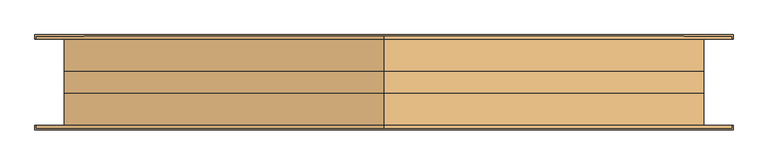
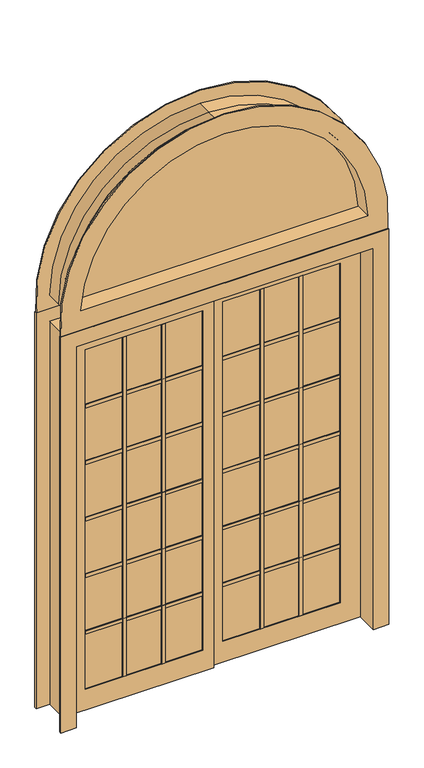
"""IFC4 building model written with IfcOpenShell, lengths in millimetres: door geometry, Pollard_Windows_Vistador Patio Doors_ATS_Half Round : AVDR6080-HRW1506_GC."""

from ifc_helpers import new_model, si_unit, point, frame, frame_2d, origin, place, context, project, spatial, polyline, circle_curve, trimmed, segment, composite_curve, outline, extrude, faceted_brep, source, transform, mapped, element, save
from ifc_brep_helpers import plane_surface, cylinder_surface, revolved_surface, advanced_brep


def door_ef641ad4(model_context):
    return source(origin(), model_context, "Body", "SolidModel", [
        extrude(outline(composite_curve([segment(polyline([(2168.398, -737.278026), (2168.398, 737.278026)]), True, "CONTINUOUS"), segment(trimmed(circle_curve(frame_2d((2155.698, 0.0)), 737.3874), [point((2168.398, 737.278026))], [point((2893.0854, 0.0))], False, "CARTESIAN"), True, "CONTINUOUS"), segment(trimmed(circle_curve(frame_2d((2155.698, 0.0)), 737.3874), [point((2893.0854, 0.0))], [point((2168.398, -737.278026))], False, "CARTESIAN"), True, "CONTINUOUS")], self_intersect=False)), frame((0.0, -2.5, 0.0), z_axis=(0.0, 1.0, 0.0), x_axis=(0.0, 0.0, 1.0)), (0.0, 0.0, 1.0), 5.0),
        advanced_brep(
        [(734.3693044, 2.5, 2171.2514091), (0.0, 2.5, 2890.2319909), (0.0, 25.4, 2890.2319909), (734.3693044, 25.4, 2171.2514091), (747.2285428, -2.5, 2158.5514091), (0.0, -2.5, 2902.9319909), (0.0, 2.5, 2902.9319909), (747.2285428, 2.5, 2158.5514091), (734.3693044, -25.4, 2171.2514091), (0.0, -25.4, 2890.2319909), (0.0, -2.5, 2890.2319909), (734.3693044, -2.5, 2171.2514091), (-734.3693044, 25.4, 2171.2514091), (-734.3693044, 2.5, 2171.2514091), (-747.2285428, 2.5, 2158.5514091), (-747.2285428, -2.5, 2158.5514091), (-734.3693044, -2.5, 2171.2514091), (-734.3693044, -25.4, 2171.2514091), (0.0, -25.4, 2905.7854), (-750.0874, -25.4, 2155.698), (750.0874, -25.4, 2155.698), (0.0, 25.4, 2905.7854), (750.0874, 25.4, 2155.698), (-750.0874, 25.4, 2155.698)],
        [
            (0, 1, circle_curve(frame((0.0, 2.5, 2155.698), z_axis=(0.0, -1.0, 0.0), x_axis=(0.0, 0.0, 1.0)), 734.5339909)),
            (1, 2),
            (2, 3, circle_curve(frame((0.0, 25.4, 2155.698), z_axis=(0.0, 1.0, 0.0), x_axis=(0.0, 0.0, 1.0)), 734.5339909)),
            (3, 0),
            (4, 5, circle_curve(frame((0.0, -2.5, 2155.698), z_axis=(0.0, -1.0, 0.0), x_axis=(0.0, 0.0, 1.0)), 747.2339909)),
            (5, 6),
            (6, 7, circle_curve(frame((0.0, 2.5, 2155.698), z_axis=(0.0, 1.0, 0.0), x_axis=(0.0, 0.0, 1.0)), 747.2339909)),
            (7, 4),
            (8, 9, circle_curve(frame((0.0, -25.4, 2155.698), z_axis=(0.0, -1.0, 0.0), x_axis=(0.0, 0.0, 1.0)), 734.5339909)),
            (9, 10),
            (10, 11, circle_curve(frame((0.0, -2.5, 2155.698), z_axis=(0.0, 1.0, 0.0), x_axis=(0.0, 0.0, 1.0)), 734.5339909)),
            (11, 8),
            (3, 12),
            (12, 13),
            (13, 0),
            (7, 14),
            (14, 15),
            (15, 4),
            (11, 16),
            (16, 17),
            (17, 8),
            (1, 13, circle_curve(frame((0.0, 2.5, 2155.698), z_axis=(0.0, -1.0, 0.0), x_axis=(-1.0, 0.0, 0.0)), 734.5339909)),
            (12, 2, circle_curve(frame((0.0, 25.4, 2155.698), z_axis=(0.0, 1.0, 0.0), x_axis=(-1.0, 0.0, 0.0)), 734.5339909)),
            (6, 14, circle_curve(frame((0.0, 2.5, 2155.698), z_axis=(0.0, -1.0, 0.0), x_axis=(-1.0, 0.0, 0.0)), 747.2339909)),
            (5, 15, circle_curve(frame((0.0, -2.5, 2155.698), z_axis=(0.0, -1.0, 0.0), x_axis=(-1.0, 0.0, 0.0)), 747.2339909)),
            (10, 16, circle_curve(frame((0.0, -2.5, 2155.698), z_axis=(0.0, -1.0, 0.0), x_axis=(-1.0, 0.0, 0.0)), 734.5339909)),
            (9, 17, circle_curve(frame((0.0, -25.4, 2155.698), z_axis=(0.0, -1.0, 0.0), x_axis=(-1.0, 0.0, 0.0)), 734.5339909)),
            (18, 19, circle_curve(frame((0.0, -25.4, 2155.698), z_axis=(0.0, -1.0, 0.0), x_axis=(-1.0, 0.0, 0.0)), 750.0874)),
            (19, 20),
            (20, 18, circle_curve(frame((0.0, -25.4, 2155.698), z_axis=(0.0, -1.0, 0.0), x_axis=(0.0, 0.0, 1.0)), 750.0874)),
            (21, 22, circle_curve(frame((0.0, 25.4, 2155.698), z_axis=(0.0, 1.0, 0.0), x_axis=(0.0, 0.0, 1.0)), 750.0874)),
            (22, 23),
            (23, 21, circle_curve(frame((0.0, 25.4, 2155.698), z_axis=(0.0, 1.0, 0.0), x_axis=(-1.0, 0.0, 0.0)), 750.0874)),
            (21, 18),
            (20, 22),
            (19, 23),
        ],
        [
            revolved_surface(polyline([(0.0, 25.4, 2890.2319909), (0.0, 2.5, 2890.2319909)]), (0.0, 0.0, 2155.698), (0.0, 1.0, 0.0)),
            revolved_surface(polyline([(0.0, 2.5, 2902.9319908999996), (0.0, -2.5, 2902.9319908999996)]), (0.0, 0.0, 2155.698), (0.0, 1.0, 0.0)),
            revolved_surface(polyline([(0.0, -2.5, 2890.2319909), (0.0, -25.4, 2890.2319909)]), (0.0, 0.0, 2155.698), (0.0, 1.0, 0.0)),
            plane_surface(frame((734.3693044, 25.4, 2171.2514091), z_axis=(0.0, 0.0, 1.0), x_axis=(-1.0, 0.0, 0.0))),
            plane_surface(frame((747.2285428, 2.5, 2158.5514091), z_axis=(0.0, 0.0, 1.0), x_axis=(-1.0, 0.0, 0.0))),
            plane_surface(frame((734.3693044, -2.5, 2171.2514091), z_axis=(0.0, 0.0, 1.0), x_axis=(-1.0, 0.0, 0.0))),
            revolved_surface(polyline([(-734.5339909, 25.4, 2155.698), (-734.5339909, 2.5, 2155.698)]), (0.0, 0.0, 2155.698), (0.0, 1.0, 0.0)),
            plane_surface(frame((0.0, 2.5, 2155.698), z_axis=(0.0, -1.0, 0.0), x_axis=(-1.0, 0.0, 0.0))),
            revolved_surface(polyline([(-747.2339909, 2.5, 2155.698), (-747.2339909, -2.5, 2155.698)]), (0.0, 0.0, 2155.698), (0.0, 1.0, 0.0)),
            plane_surface(frame((0.0, -2.5, 2155.698), z_axis=(0.0, 1.0, 0.0), x_axis=(-1.0, 0.0, 0.0))),
            revolved_surface(polyline([(-734.5339909, -2.5, 2155.698), (-734.5339909, -25.4, 2155.698)]), (0.0, 0.0, 2155.698), (0.0, 1.0, 0.0)),
            plane_surface(frame((0.0, -25.4, 2155.698), z_axis=(0.0, -1.0, 0.0), x_axis=(-1.0, 0.0, 0.0))),
            plane_surface(frame((0.0, 25.4, 2155.698), z_axis=(0.0, 1.0, 0.0), x_axis=(-1.0, 0.0, 0.0))),
            cylinder_surface(frame((0.0, 0.0, 2155.698), z_axis=(0.0, 1.0, 0.0), x_axis=(0.0, 0.0, 1.0)), 750.0874),
            plane_surface(frame((750.0874, -25.4, 2155.698), z_axis=(0.0, 0.0, -1.0), x_axis=(-1.0, 0.0, 0.0))),
            cylinder_surface(frame((0.0, 0.0, 2155.698), z_axis=(0.0, 1.0, 0.0), x_axis=(-1.0, 0.0, 0.0)), 750.0874),
        ],
        [
            (0, [[1, 2, 3, 4]]),
            (1, [[5, 6, 7, 8]]),
            (2, [[9, 10, 11, 12]]),
            (3, [[-4, 13, 14, 15]]),
            (4, [[-8, 16, 17, 18]]),
            (5, [[-12, 19, 20, 21]]),
            (6, [[22, -14, 23, -2]]),
            (7, [[24, -16, -7], [-1, -15, -22]]),
            (8, [[25, -17, -24, -6]]),
            (9, [[-5, -18, -25], [26, -19, -11]]),
            (10, [[27, -20, -26, -10]]),
            (11, [[28, 29, 30], [-9, -21, -27]]),
            (12, [[31, 32, 33], [-23, -13, -3]]),
            (13, [[-31, 34, -30, 35]]),
            (14, [[-35, -29, 36, -32]]),
            (15, [[-33, -36, -28, -34]]),
        ],
    ),
        advanced_brep(
        [(815.4394697, 107.95, 2087.499), (0.0, 107.95, 2973.9844), (0.0, 101.6, 2973.9844), (815.4394697, 101.6, 2087.499), (716.306733, 25.4, 2188.718), (0.0, 25.4, 2872.7654), (0.0, 107.95, 2872.7654), (716.306733, 107.95, 2188.718), (737.278026, -25.4, 2168.398), (0.0, -25.4, 2893.0854), (0.0, 25.4, 2893.0854), (737.278026, 25.4, 2168.398), (716.306733, -107.95, 2188.718), (0.0, -107.95, 2872.7654), (0.0, -25.4, 2872.7654), (716.306733, -25.4, 2188.718), (815.4394697, -101.6, 2087.499), (0.0, -101.6, 2973.9844), (0.0, -107.95, 2973.9844), (815.4394697, -107.95, 2087.499), (750.0874, 101.6, 2155.698), (0.0, 101.6, 2905.7854), (0.0, -101.6, 2905.7854), (750.0874, -101.6, 2155.698), (-815.4394697, 101.6, 2087.499), (-815.4394697, 107.95, 2087.499), (-716.306733, 107.95, 2188.718), (-716.306733, 25.4, 2188.718), (-737.278026, 25.4, 2168.398), (-737.278026, -25.4, 2168.398), (-716.306733, -25.4, 2188.718), (-716.306733, -107.95, 2188.718), (-815.4394697, -107.95, 2087.499), (-815.4394697, -101.6, 2087.499), (-750.0874, -101.6, 2155.698), (-750.0874, 101.6, 2155.698)],
        [
            (0, 1, circle_curve(frame((0.0, 107.95, 2155.698), z_axis=(0.0, -1.0, 0.0), x_axis=(0.0, 0.0, 1.0)), 818.2864)),
            (1, 2),
            (2, 3, circle_curve(frame((0.0, 101.6, 2155.698), z_axis=(0.0, 1.0, 0.0), x_axis=(0.0, 0.0, 1.0)), 818.2864)),
            (3, 0),
            (4, 5, circle_curve(frame((0.0, 25.4, 2155.698), z_axis=(0.0, -1.0, 0.0), x_axis=(0.0, 0.0, 1.0)), 717.0674)),
            (5, 6),
            (6, 7, circle_curve(frame((0.0, 107.95, 2155.698), z_axis=(0.0, 1.0, 0.0), x_axis=(0.0, 0.0, 1.0)), 717.0674)),
            (7, 4),
            (8, 9, circle_curve(frame((0.0, -25.4, 2155.698), z_axis=(0.0, -1.0, 0.0), x_axis=(0.0, 0.0, 1.0)), 737.3874)),
            (9, 10),
            (10, 11, circle_curve(frame((0.0, 25.4, 2155.698), z_axis=(0.0, 1.0, 0.0), x_axis=(0.0, 0.0, 1.0)), 737.3874)),
            (11, 8),
            (12, 13, circle_curve(frame((0.0, -107.95, 2155.698), z_axis=(0.0, -1.0, 0.0), x_axis=(0.0, 0.0, 1.0)), 717.0674)),
            (13, 14),
            (14, 15, circle_curve(frame((0.0, -25.4, 2155.698), z_axis=(0.0, 1.0, 0.0), x_axis=(0.0, 0.0, 1.0)), 717.0674)),
            (15, 12),
            (16, 17, circle_curve(frame((0.0, -101.6, 2155.698), z_axis=(0.0, -1.0, 0.0), x_axis=(0.0, 0.0, 1.0)), 818.2864)),
            (17, 18),
            (18, 19, circle_curve(frame((0.0, -107.95, 2155.698), z_axis=(0.0, 1.0, 0.0), x_axis=(0.0, 0.0, 1.0)), 818.2864)),
            (19, 16),
            (20, 21, circle_curve(frame((0.0, 101.6, 2155.698), z_axis=(0.0, -1.0, 0.0), x_axis=(0.0, 0.0, 1.0)), 750.0874)),
            (21, 22),
            (22, 23, circle_curve(frame((0.0, -101.6, 2155.698), z_axis=(0.0, 1.0, 0.0), x_axis=(0.0, 0.0, 1.0)), 750.0874)),
            (23, 20),
            (3, 24),
            (24, 25),
            (25, 0),
            (7, 26),
            (26, 27),
            (27, 4),
            (11, 28),
            (28, 29),
            (29, 8),
            (15, 30),
            (30, 31),
            (31, 12),
            (19, 32),
            (32, 33),
            (33, 16),
            (23, 34),
            (34, 35),
            (35, 20),
            (2, 24, circle_curve(frame((0.0, 101.6, 2155.698), z_axis=(0.0, -1.0, 0.0), x_axis=(-1.0, 0.0, 0.0)), 818.2864)),
            (35, 21, circle_curve(frame((0.0, 101.6, 2155.698), z_axis=(0.0, 1.0, 0.0), x_axis=(-1.0, 0.0, 0.0)), 750.0874)),
            (1, 25, circle_curve(frame((0.0, 107.95, 2155.698), z_axis=(0.0, -1.0, 0.0), x_axis=(-1.0, 0.0, 0.0)), 818.2864)),
            (6, 26, circle_curve(frame((0.0, 107.95, 2155.698), z_axis=(0.0, -1.0, 0.0), x_axis=(-1.0, 0.0, 0.0)), 717.0674)),
            (5, 27, circle_curve(frame((0.0, 25.4, 2155.698), z_axis=(0.0, -1.0, 0.0), x_axis=(-1.0, 0.0, 0.0)), 717.0674)),
            (10, 28, circle_curve(frame((0.0, 25.4, 2155.698), z_axis=(0.0, -1.0, 0.0), x_axis=(-1.0, 0.0, 0.0)), 737.3874)),
            (9, 29, circle_curve(frame((0.0, -25.4, 2155.698), z_axis=(0.0, -1.0, 0.0), x_axis=(-1.0, 0.0, 0.0)), 737.3874)),
            (14, 30, circle_curve(frame((0.0, -25.4, 2155.698), z_axis=(0.0, -1.0, 0.0), x_axis=(-1.0, 0.0, 0.0)), 717.0674)),
            (13, 31, circle_curve(frame((0.0, -107.95, 2155.698), z_axis=(0.0, -1.0, 0.0), x_axis=(-1.0, 0.0, 0.0)), 717.0674)),
            (18, 32, circle_curve(frame((0.0, -107.95, 2155.698), z_axis=(0.0, -1.0, 0.0), x_axis=(-1.0, 0.0, 0.0)), 818.2864)),
            (17, 33, circle_curve(frame((0.0, -101.6, 2155.698), z_axis=(0.0, -1.0, 0.0), x_axis=(-1.0, 0.0, 0.0)), 818.2864)),
            (22, 34, circle_curve(frame((0.0, -101.6, 2155.698), z_axis=(0.0, -1.0, 0.0), x_axis=(-1.0, 0.0, 0.0)), 750.0874)),
        ],
        [
            cylinder_surface(frame((0.0, -101.6, 2155.698), z_axis=(0.0, 1.0, 0.0), x_axis=(0.0, 0.0, 1.0)), 818.2864),
            revolved_surface(polyline([(0.0, 107.95000000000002, 2872.7653999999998), (0.0, 25.400000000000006, 2872.7653999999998)]), (0.0, -101.6, 2155.698), (0.0, 1.0, 0.0)),
            revolved_surface(polyline([(0.0, 25.400000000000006, 2893.0854), (0.0, -25.400000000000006, 2893.0854)]), (0.0, -101.6, 2155.698), (0.0, 1.0, 0.0)),
            revolved_surface(polyline([(0.0, -25.400000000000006, 2872.7653999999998), (0.0, -107.95, 2872.7653999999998)]), (0.0, -101.6, 2155.698), (0.0, 1.0, 0.0)),
            cylinder_surface(frame((0.0, -101.6, 2155.698), z_axis=(0.0, 1.0, 0.0), x_axis=(0.0, 0.0, 1.0)), 750.0874),
            plane_surface(frame((815.4394697, 101.6, 2087.499), z_axis=(0.0, 0.0, -1.0), x_axis=(-1.0, 0.0, 0.0))),
            plane_surface(frame((716.306733, 107.95, 2188.718), z_axis=(0.0, 0.0, 1.0), x_axis=(-1.0, 0.0, 0.0))),
            plane_surface(frame((737.278026, 25.4, 2168.398), z_axis=(0.0, 0.0, 1.0), x_axis=(-1.0, 0.0, 0.0))),
            plane_surface(frame((716.306733, -25.4, 2188.718), z_axis=(0.0, 0.0, 1.0), x_axis=(-1.0, 0.0, 0.0))),
            plane_surface(frame((815.4394697, -107.95, 2087.499), z_axis=(0.0, 0.0, -1.0), x_axis=(-1.0, 0.0, 0.0))),
            plane_surface(frame((750.0874, -101.6, 2155.698), z_axis=(0.0, 0.0, -1.0), x_axis=(-1.0, 0.0, 0.0))),
            plane_surface(frame((0.0, 101.6, 2155.698), z_axis=(0.0, -1.0, 0.0), x_axis=(-1.0, 0.0, 0.0))),
            cylinder_surface(frame((0.0, -101.6, 2155.698), z_axis=(0.0, 1.0, 0.0), x_axis=(-1.0, 0.0, 0.0)), 818.2864),
            plane_surface(frame((0.0, 107.95, 2155.698), z_axis=(0.0, 1.0, 0.0), x_axis=(-1.0, 0.0, 0.0))),
            revolved_surface(polyline([(-717.0674, 107.95000000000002, 2155.698), (-717.0674, 25.400000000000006, 2155.698)]), (0.0, -101.6, 2155.698), (0.0, 1.0, 0.0)),
            plane_surface(frame((0.0, 25.4, 2155.698), z_axis=(0.0, -1.0, 0.0), x_axis=(-1.0, 0.0, 0.0))),
            revolved_surface(polyline([(-737.3874, 25.400000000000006, 2155.698), (-737.3874, -25.400000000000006, 2155.698)]), (0.0, -101.6, 2155.698), (0.0, 1.0, 0.0)),
            plane_surface(frame((0.0, -25.4, 2155.698), z_axis=(0.0, 1.0, 0.0), x_axis=(-1.0, 0.0, 0.0))),
            revolved_surface(polyline([(-717.0674, -25.400000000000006, 2155.698), (-717.0674, -107.95, 2155.698)]), (0.0, -101.6, 2155.698), (0.0, 1.0, 0.0)),
            plane_surface(frame((0.0, -107.95, 2155.698), z_axis=(0.0, -1.0, 0.0), x_axis=(-1.0, 0.0, 0.0))),
            plane_surface(frame((0.0, -101.6, 2155.698), z_axis=(0.0, 1.0, 0.0), x_axis=(-1.0, 0.0, 0.0))),
            cylinder_surface(frame((0.0, -101.6, 2155.698), z_axis=(0.0, 1.0, 0.0), x_axis=(-1.0, 0.0, 0.0)), 750.0874),
        ],
        [
            (0, [[1, 2, 3, 4]]),
            (1, [[5, 6, 7, 8]]),
            (2, [[9, 10, 11, 12]]),
            (3, [[13, 14, 15, 16]]),
            (0, [[17, 18, 19, 20]]),
            (4, [[21, 22, 23, 24]]),
            (5, [[-4, 25, 26, 27]]),
            (6, [[-8, 28, 29, 30]]),
            (7, [[-12, 31, 32, 33]]),
            (8, [[-16, 34, 35, 36]]),
            (9, [[-20, 37, 38, 39]]),
            (10, [[-24, 40, 41, 42]]),
            (11, [[43, -25, -3], [-21, -42, 44]]),
            (12, [[45, -26, -43, -2]]),
            (13, [[-1, -27, -45], [46, -28, -7]]),
            (14, [[47, -29, -46, -6]]),
            (15, [[48, -31, -11], [-5, -30, -47]]),
            (16, [[49, -32, -48, -10]]),
            (17, [[-9, -33, -49], [50, -34, -15]]),
            (18, [[51, -35, -50, -14]]),
            (19, [[52, -37, -19], [-13, -36, -51]]),
            (12, [[53, -38, -52, -18]]),
            (20, [[-17, -39, -53], [54, -40, -23]]),
            (21, [[-44, -41, -54, -22]]),
        ],
    ),
        extrude(outline(polyline([(-54.991, -10.0399998), (-640.1054, -10.0399998), (-640.1054, -4.9599998), (-54.991, -4.9599998), (-54.991, -10.0399998)])), frame((0.0, 0.0, 109.982), z_axis=(0.0, 0.0, 1.0), x_axis=(1.0, 0.0, 0.0)), (0.0, 0.0, 1.0), 1790.586),
        extrude(outline(polyline([(454.0672667, 14.9999996), (454.0672667, 9.9999998), (449.0672667, 9.9999998), (449.0672667, 4.9999998), (454.0672667, 4.9999998), (454.0672667, 0.0), (436.0672667, 0.0), (436.0672667, 4.9999998), (441.0672667, 4.9999998), (441.0672667, 9.9999998), (436.0672667, 9.9999998), (436.0672667, 14.9999996), (454.0672667, 14.9999996)])), frame((0.0, 0.0, 109.982), z_axis=(0.0, 0.0, 1.0), x_axis=(1.0, 0.0, 0.0)), (0.0, 0.0, 1.0), 1790.586),
        extrude(outline(polyline([(259.0291333, 14.9999996), (259.0291333, 9.9999998), (254.0291333, 9.9999998), (254.0291333, 4.9999998), (259.0291333, 4.9999998), (259.0291333, 0.0), (241.0291333, 0.0), (241.0291333, 4.9999998), (246.0291333, 4.9999998), (246.0291333, 9.9999998), (241.0291333, 9.9999998), (241.0291333, 14.9999996), (259.0291333, 14.9999996)])), frame((0.0, 0.0, 109.982), z_axis=(0.0, 0.0, 1.0), x_axis=(1.0, 0.0, 0.0)), (0.0, 0.0, 1.0), 1790.586),
        extrude(outline(polyline([(-241.0291333, 0.0), (-241.0291333, -4.9999998), (-246.0291333, -4.9999998), (-246.0291333, -9.9999998), (-241.0291333, -9.9999998), (-241.0291333, -14.9999996), (-259.0291333, -14.9999996), (-259.0291333, -9.9999998), (-254.0291333, -9.9999998), (-254.0291333, -4.9999998), (-259.0291333, -4.9999998), (-259.0291333, 0.0), (-241.0291333, 0.0)])), frame((0.0, 0.0, 109.982), z_axis=(0.0, 0.0, 1.0), x_axis=(1.0, 0.0, 0.0)), (0.0, 0.0, 1.0), 1790.586),
        extrude(outline(polyline([(-436.0672667, 0.0), (-436.0672667, -4.9999998), (-441.0672667, -4.9999998), (-441.0672667, -9.9999998), (-436.0672667, -9.9999998), (-436.0672667, -14.9999996), (-454.0672667, -14.9999996), (-454.0672667, -9.9999998), (-449.0672667, -9.9999998), (-449.0672667, -4.9999998), (-454.0672667, -4.9999998), (-454.0672667, 0.0), (-436.0672667, 0.0)])), frame((0.0, 0.0, 109.982), z_axis=(0.0, 0.0, 1.0), x_axis=(1.0, 0.0, 0.0)), (0.0, 0.0, 1.0), 1790.586),
        extrude(outline(polyline([(54.991, 10.0399998), (640.1054, 10.0399998), (640.1054, 4.9599998), (54.991, 4.9599998), (54.991, 10.0399998)])), frame((0.0, 0.0, 109.982), z_axis=(0.0, 0.0, 1.0), x_axis=(1.0, 0.0, 0.0)), (0.0, 0.0, 1.0), 1790.586),
        extrude(outline(polyline([(2010.55, 741.3374), (2010.55, 0.0), (0.0, 0.0), (0.0, 741.3374), (2010.55, 741.3374)]), holes=[polyline([(109.982, 640.1054), (109.982, 54.991), (1900.568, 54.991), (1900.568, 640.1054), (109.982, 640.1054)])]), frame((0.0, 0.0, 0.0), z_axis=(0.0, 1.0, 0.0), x_axis=(0.0, 0.0, 1.0)), (0.0, 0.0, 1.0), 14.9999996),
        extrude(outline(polyline([(2010.55, -741.3374), (0.0, -741.3374), (0.0, 0.0), (2010.55, 0.0), (2010.55, -741.3374)]), holes=[polyline([(1900.568, -640.1054), (1900.568, -54.991), (109.982, -54.991), (109.982, -640.1054), (1900.568, -640.1054)])]), frame((0.0, -14.9999996, 0.0), z_axis=(0.0, 1.0, 0.0), x_axis=(0.0, 0.0, 1.0)), (0.0, 0.0, 1.0), 14.9999996),
        faceted_brep([(818.2864, 111.6, 0.0), (818.2864, 101.6, 0.0), (750.0874, 101.6, 0.0), (750.0874, -101.6, 0.0), (818.2864, -101.6, 0.0), (818.2864, -111.6, 0.0), (741.3374, -111.6, 0.0), (741.3374, 111.6, 0.0), (818.2864, 111.6, 2087.499), (818.2864, 101.6, 2087.499), (-818.2864, 101.6, 2087.499), (-818.2864, 101.6, 0.0), (-750.0874, 101.6, 0.0), (-750.0874, 101.6, 2019.3), (750.0874, 101.6, 2019.3), (750.0874, -101.6, 2019.3), (-750.0874, -101.6, 2019.3), (-750.0874, -101.6, 0.0), (-818.2864, -101.6, 0.0), (-818.2864, -101.6, 2087.499), (818.2864, -101.6, 2087.499), (818.2864, -111.6, 2087.499), (-818.2864, -111.6, 2087.499), (-818.2864, -111.6, 0.0), (-741.3374, -111.6, 0.0), (-741.3374, -111.6, 2010.55), (741.3374, -111.6, 2010.55), (741.3374, 111.6, 2010.55), (-741.3374, 111.6, 2010.55), (-741.3374, 111.6, 0.0), (-818.2864, 111.6, 0.0), (-818.2864, 111.6, 2087.499)], [[[0, 1, 2, 3, 4, 5, 6, 7]], [[1, 0, 8, 9]], [[2, 1, 9, 10, 11, 12, 13, 14]], [[2, 14, 15, 3]], [[4, 3, 15, 16, 17, 18, 19, 20]], [[5, 4, 20, 21]], [[6, 5, 21, 22, 23, 24, 25, 26]], [[6, 26, 27, 7]], [[0, 7, 27, 28, 29, 30, 31, 8]], [[30, 29, 24, 23, 18, 17, 12, 11]], [[28, 25, 24, 29]], [[22, 19, 18, 23]], [[16, 13, 12, 17]], [[10, 31, 30, 11]], [[9, 8, 31, 10]], [[27, 26, 25, 28]], [[15, 14, 13, 16]], [[21, 20, 19, 22]]]),
        extrude(outline(polyline([(14.9999996, 1014.275), (14.9999996, 996.275), (9.9999998, 996.275), (9.9999998, 1001.275), (4.9999998, 1001.275), (4.9999998, 996.275), (0.0, 996.275), (0.0, 1014.275), (4.9999998, 1014.275), (4.9999998, 1009.275), (9.9999998, 1009.275), (9.9999998, 1014.275), (14.9999996, 1014.275)])), frame((54.991, 0.0, 0.0), z_axis=(1.0, 0.0, 0.0), x_axis=(0.0, 1.0, 0.0)), (0.0, 0.0, 1.0), 585.1144),
        extrude(outline(polyline([(14.9999996, 1611.137), (14.9999996, 1593.137), (9.9999998, 1593.137), (9.9999998, 1598.137), (4.9999998, 1598.137), (4.9999998, 1593.137), (0.0, 1593.137), (0.0, 1611.137), (4.9999998, 1611.137), (4.9999998, 1606.137), (9.9999998, 1606.137), (9.9999998, 1611.137), (14.9999996, 1611.137)])), frame((54.991, 0.0, 0.0), z_axis=(1.0, 0.0, 0.0), x_axis=(0.0, 1.0, 0.0)), (0.0, 0.0, 1.0), 585.1144),
        extrude(outline(polyline([(-14.9999996, 1593.137), (-14.9999996, 1611.137), (-9.9999998, 1611.137), (-9.9999998, 1606.137), (-4.9999998, 1606.137), (-4.9999998, 1611.137), (0.0, 1611.137), (0.0, 1593.137), (-4.9999998, 1593.137), (-4.9999998, 1598.137), (-9.9999998, 1598.137), (-9.9999998, 1593.137), (-14.9999996, 1593.137)])), frame((-640.1054, 0.0, 0.0), z_axis=(1.0, 0.0, 0.0), x_axis=(0.0, 1.0, 0.0)), (0.0, 0.0, 1.0), 585.1144),
        extrude(outline(polyline([(14.9999996, 1312.706), (14.9999996, 1294.706), (9.9999998, 1294.706), (9.9999998, 1299.706), (4.9999998, 1299.706), (4.9999998, 1294.706), (0.0, 1294.706), (0.0, 1312.706), (4.9999998, 1312.706), (4.9999998, 1307.706), (9.9999998, 1307.706), (9.9999998, 1312.706), (14.9999996, 1312.706)])), frame((54.991, 0.0, 0.0), z_axis=(1.0, 0.0, 0.0), x_axis=(0.0, 1.0, 0.0)), (0.0, 0.0, 1.0), 585.1144),
        extrude(outline(polyline([(-14.9999996, 1294.706), (-14.9999996, 1312.706), (-9.9999998, 1312.706), (-9.9999998, 1307.706), (-4.9999998, 1307.706), (-4.9999998, 1312.706), (0.0, 1312.706), (0.0, 1294.706), (-4.9999998, 1294.706), (-4.9999998, 1299.706), (-9.9999998, 1299.706), (-9.9999998, 1294.706), (-14.9999996, 1294.706)])), frame((-640.1054, 0.0, 0.0), z_axis=(1.0, 0.0, 0.0), x_axis=(0.0, 1.0, 0.0)), (0.0, 0.0, 1.0), 585.1144),
        extrude(outline(polyline([(14.9999996, 715.844), (14.9999996, 697.844), (9.9999998, 697.844), (9.9999998, 702.844), (4.9999998, 702.844), (4.9999998, 697.844), (0.0, 697.844), (0.0, 715.844), (4.9999998, 715.844), (4.9999998, 710.844), (9.9999998, 710.844), (9.9999998, 715.844), (14.9999996, 715.844)])), frame((54.991, 0.0, 0.0), z_axis=(1.0, 0.0, 0.0), x_axis=(0.0, 1.0, 0.0)), (0.0, 0.0, 1.0), 585.1144),
        extrude(outline(polyline([(-14.9999996, 697.844), (-14.9999996, 715.844), (-9.9999998, 715.844), (-9.9999998, 710.844), (-4.9999998, 710.844), (-4.9999998, 715.844), (0.0, 715.844), (0.0, 697.844), (-4.9999998, 697.844), (-4.9999998, 702.844), (-9.9999998, 702.844), (-9.9999998, 697.844), (-14.9999996, 697.844)])), frame((-640.1054, 0.0, 0.0), z_axis=(1.0, 0.0, 0.0), x_axis=(0.0, 1.0, 0.0)), (0.0, 0.0, 1.0), 585.1144),
        extrude(outline(polyline([(14.9999996, 417.413), (14.9999996, 399.413), (9.9999998, 399.413), (9.9999998, 404.413), (4.9999998, 404.413), (4.9999998, 399.413), (0.0, 399.413), (0.0, 417.413), (4.9999998, 417.413), (4.9999998, 412.413), (9.9999998, 412.413), (9.9999998, 417.413), (14.9999996, 417.413)])), frame((54.991, 0.0, 0.0), z_axis=(1.0, 0.0, 0.0), x_axis=(0.0, 1.0, 0.0)), (0.0, 0.0, 1.0), 585.1144),
        extrude(outline(polyline([(-14.9999996, 399.413), (-14.9999996, 417.413), (-9.9999998, 417.413), (-9.9999998, 412.413), (-4.9999998, 412.413), (-4.9999998, 417.413), (0.0, 417.413), (0.0, 399.413), (-4.9999998, 399.413), (-4.9999998, 404.413), (-9.9999998, 404.413), (-9.9999998, 399.413), (-14.9999996, 399.413)])), frame((-640.1054, 0.0, 0.0), z_axis=(1.0, 0.0, 0.0), x_axis=(0.0, 1.0, 0.0)), (0.0, 0.0, 1.0), 585.1144),
        extrude(outline(polyline([(-14.9999996, 996.275), (-14.9999996, 1014.275), (-9.9999998, 1014.275), (-9.9999998, 1009.275), (-4.9999998, 1009.275), (-4.9999998, 1014.275), (0.0, 1014.275), (0.0, 996.275), (-4.9999998, 996.275), (-4.9999998, 1001.275), (-9.9999998, 1001.275), (-9.9999998, 996.275), (-14.9999996, 996.275)])), frame((-640.1054, 0.0, 0.0), z_axis=(1.0, 0.0, 0.0), x_axis=(0.0, 1.0, 0.0)), (0.0, 0.0, 1.0), 585.1144),
    ])


if __name__ == "__main__":
    model = new_model("IFC4")
    model_context = context("Model", 3, world=origin())
    ifc_project = project(units=[si_unit("LENGTHUNIT", "METRE", prefix="MILLI")], contexts=[model_context])
    site = spatial("IfcSite", under=ifc_project)
    building = spatial("IfcBuilding", under=site)
    placement = place(None, origin())
    door_shape = door_ef641ad4(model_context)
    element("IfcDoor", 1, ObjectType="Pollard_Windows_Vistador Patio Doors_ATS_Half Round : AVDR6080-HRW1506_GC", at=placement, inside=building, context=model_context, shape_type="MappedRepresentation", body=[
        mapped(door_shape, transform((0.0, 0.0, 0.0), x_axis=(1.0, 0.0, 0.0), y_axis=(0.0, 1.0, 0.0), z_axis=(0.0, 0.0, 1.0))),
    ])
    save(model, "model.ifc")
